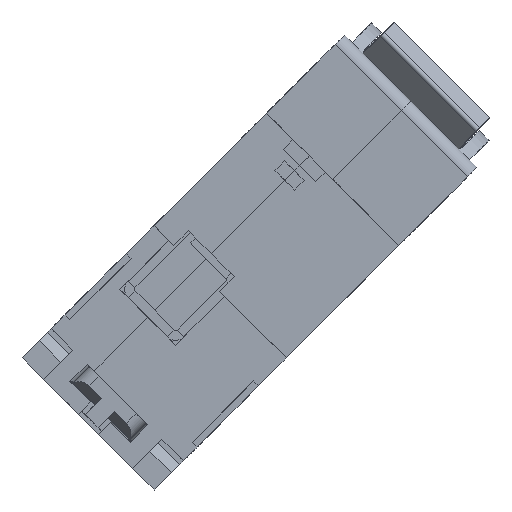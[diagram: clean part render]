
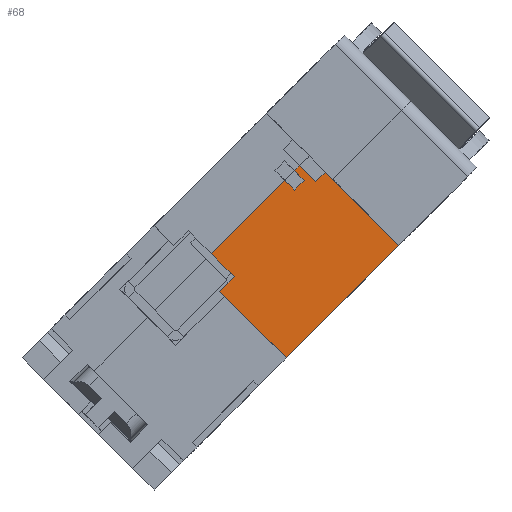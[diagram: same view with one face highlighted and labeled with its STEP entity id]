
A CAD part, front view. The second image highlights one B-rep face of the part: STEP entity #68.
In plain terms, the highlighted planar face has unit normal (0, -1, 0) as drawn and (-1, 0, 0) by its records, which use the part's own axes.
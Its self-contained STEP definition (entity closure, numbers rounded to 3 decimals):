
#54 = VERTEX_POINT ( 'NONE', #6574 ) ;
#55 = ORIENTED_EDGE ( 'NONE', *, *, #114, .F. ) ;
#68 = ADVANCED_FACE ( 'NONE', ( #6614 ), #6613, .F. ) ;
#100 = ORIENTED_EDGE ( 'NONE', *, *, #6307, .F. ) ;
#114 = EDGE_CURVE ( 'NONE', #115, #54, #6671, .T. ) ;
#115 = VERTEX_POINT ( 'NONE', #6667 ) ;
#116 = ORIENTED_EDGE ( 'NONE', *, *, #117, .T. ) ;
#117 = EDGE_CURVE ( 'NONE', #115, #6442, #6666, .T. ) ;
#118 = ORIENTED_EDGE ( 'NONE', *, *, #6450, .F. ) ;
#119 = ORIENTED_EDGE ( 'NONE', *, *, #120, .F. ) ;
#120 = EDGE_CURVE ( 'NONE', #121, #6448, #6662, .T. ) ;
#121 = VERTEX_POINT ( 'NONE', #6721 ) ;
#122 = ORIENTED_EDGE ( 'NONE', *, *, #123, .F. ) ;
#123 = EDGE_CURVE ( 'NONE', #124, #121, #6720, .T. ) ;
#124 = VERTEX_POINT ( 'NONE', #6716 ) ;
#125 = ORIENTED_EDGE ( 'NONE', *, *, #126, .F. ) ;
#126 = EDGE_CURVE ( 'NONE', #6308, #124, #6715, .T. ) ;
#127 = EDGE_LOOP ( 'NONE', ( #128, #131, #134, #136, #137, #55, #116, #118, #119, #122, #125, #100 ) ) ;
#128 = ORIENTED_EDGE ( 'NONE', *, *, #129, .T. ) ;
#129 = EDGE_CURVE ( 'NONE', #6305, #130, #6711, .T. ) ;
#130 = VERTEX_POINT ( 'NONE', #6707 ) ;
#131 = ORIENTED_EDGE ( 'NONE', *, *, #132, .F. ) ;
#132 = EDGE_CURVE ( 'NONE', #133, #130, #6706, .T. ) ;
#133 = VERTEX_POINT ( 'NONE', #6702 ) ;
#134 = ORIENTED_EDGE ( 'NONE', *, *, #135, .F. ) ;
#135 = EDGE_CURVE ( 'NONE', #6155, #133, #6701, .T. ) ;
#136 = ORIENTED_EDGE ( 'NONE', *, *, #6219, .F. ) ;
#137 = ORIENTED_EDGE ( 'NONE', *, *, #138, .F. ) ;
#138 = EDGE_CURVE ( 'NONE', #54, #6161, #6697, .T. ) ;
#6155 = VERTEX_POINT ( 'NONE', #16440 ) ;
#6161 = VERTEX_POINT ( 'NONE', #16430 ) ;
#6219 = EDGE_CURVE ( 'NONE', #6161, #6155, #16578, .T. ) ;
#6305 = VERTEX_POINT ( 'NONE', #16681 ) ;
#6307 = EDGE_CURVE ( 'NONE', #6305, #6308, #16680, .T. ) ;
#6308 = VERTEX_POINT ( 'NONE', #16676 ) ;
#6442 = VERTEX_POINT ( 'NONE', #16895 ) ;
#6448 = VERTEX_POINT ( 'NONE', #16949 ) ;
#6450 = EDGE_CURVE ( 'NONE', #6448, #6442, #16948, .T. ) ;
#6574 = CARTESIAN_POINT ( 'NONE',  ( -17.8, -19., -2.8 ) ) ;
#6609 = DIRECTION ( 'NONE',  ( 0., 0., -1. ) ) ;
#6610 = DIRECTION ( 'NONE',  ( 1., 0., 0. ) ) ;
#6611 = CARTESIAN_POINT ( 'NONE',  ( -17.8, -39., 13.5 ) ) ;
#6612 = AXIS2_PLACEMENT_3D ( 'NONE', #6611, #6610, #6609 ) ;
#6613 = PLANE ( 'NONE',  #6612 ) ;
#6614 = FACE_OUTER_BOUND ( 'NONE', #127, .T. ) ;
#6659 = DIRECTION ( 'NONE',  ( 0., 0., -1. ) ) ;
#6660 = VECTOR ( 'NONE', #6659, 1000. ) ;
#6661 = CARTESIAN_POINT ( 'NONE',  ( -17.8, -36., -4.8 ) ) ;
#6662 = LINE ( 'NONE', #6661, #6660 ) ;
#6663 = DIRECTION ( 'NONE',  ( 0., 0., -1. ) ) ;
#6664 = VECTOR ( 'NONE', #6663, 1000. ) ;
#6665 = CARTESIAN_POINT ( 'NONE',  ( -17.8, -21., -2.8 ) ) ;
#6666 = LINE ( 'NONE', #6665, #6664 ) ;
#6667 = CARTESIAN_POINT ( 'NONE',  ( -17.8, -21., -2.8 ) ) ;
#6668 = DIRECTION ( 'NONE',  ( 0., 1., 0. ) ) ;
#6669 = VECTOR ( 'NONE', #6668, 1000. ) ;
#6670 = CARTESIAN_POINT ( 'NONE',  ( -17.8, -19., -2.8 ) ) ;
#6671 = LINE ( 'NONE', #6670, #6669 ) ;
#6694 = DIRECTION ( 'NONE',  ( 0., 0., -1. ) ) ;
#6695 = VECTOR ( 'NONE', #6694, 1000. ) ;
#6696 = CARTESIAN_POINT ( 'NONE',  ( -17.8, -19., -2.8 ) ) ;
#6697 = LINE ( 'NONE', #6696, #6695 ) ;
#6698 = DIRECTION ( 'NONE',  ( 0., 0., 1. ) ) ;
#6699 = VECTOR ( 'NONE', #6698, 1000. ) ;
#6700 = CARTESIAN_POINT ( 'NONE',  ( -17.8, -18., -4.8 ) ) ;
#6701 = LINE ( 'NONE', #6700, #6699 ) ;
#6702 = CARTESIAN_POINT ( 'NONE',  ( -17.8, -18., -1.5 ) ) ;
#6703 = DIRECTION ( 'NONE',  ( 0., 1., 0. ) ) ;
#6704 = VECTOR ( 'NONE', #6703, 1000. ) ;
#6705 = CARTESIAN_POINT ( 'NONE',  ( -17.8, -18., -1.5 ) ) ;
#6706 = LINE ( 'NONE', #6705, #6704 ) ;
#6707 = CARTESIAN_POINT ( 'NONE',  ( -17.8, -16., -1.5 ) ) ;
#6708 = DIRECTION ( 'NONE',  ( 0., 0., -1. ) ) ;
#6709 = VECTOR ( 'NONE', #6708, 1000. ) ;
#6710 = CARTESIAN_POINT ( 'NONE',  ( -17.8, -16., 13.5 ) ) ;
#6711 = LINE ( 'NONE', #6710, #6709 ) ;
#6712 = DIRECTION ( 'NONE',  ( 0., 0., -1. ) ) ;
#6713 = VECTOR ( 'NONE', #6712, 1000. ) ;
#6714 = CARTESIAN_POINT ( 'NONE',  ( -17.8, -39., 13.5 ) ) ;
#6715 = LINE ( 'NONE', #6714, #6713 ) ;
#6716 = CARTESIAN_POINT ( 'NONE',  ( -17.8, -39., -0.1 ) ) ;
#6717 = DIRECTION ( 'NONE',  ( 0., 1., 0. ) ) ;
#6718 = VECTOR ( 'NONE', #6717, 1000. ) ;
#6719 = CARTESIAN_POINT ( 'NONE',  ( -17.8, -36., -0.1 ) ) ;
#6720 = LINE ( 'NONE', #6719, #6718 ) ;
#6721 = CARTESIAN_POINT ( 'NONE',  ( -17.8, -36., -0.1 ) ) ;
#16430 = CARTESIAN_POINT ( 'NONE',  ( -17.8, -19., -4.8 ) ) ;
#16440 = CARTESIAN_POINT ( 'NONE',  ( -17.8, -18., -4.8 ) ) ;
#16575 = DIRECTION ( 'NONE',  ( 0., 1., 0. ) ) ;
#16576 = VECTOR ( 'NONE', #16575, 1000. ) ;
#16577 = CARTESIAN_POINT ( 'NONE',  ( -17.8, -16., -4.8 ) ) ;
#16578 = LINE ( 'NONE', #16577, #16576 ) ;
#16676 = CARTESIAN_POINT ( 'NONE',  ( -17.8, -39., 13.5 ) ) ;
#16677 = DIRECTION ( 'NONE',  ( 0., -1., 0. ) ) ;
#16678 = VECTOR ( 'NONE', #16677, 1000. ) ;
#16679 = CARTESIAN_POINT ( 'NONE',  ( -17.8, -39., 13.5 ) ) ;
#16680 = LINE ( 'NONE', #16679, #16678 ) ;
#16681 = CARTESIAN_POINT ( 'NONE',  ( -17.8, -16., 13.5 ) ) ;
#16895 = CARTESIAN_POINT ( 'NONE',  ( -17.8, -21., -4.8 ) ) ;
#16945 = DIRECTION ( 'NONE',  ( 0., 1., 0. ) ) ;
#16946 = VECTOR ( 'NONE', #16945, 1000. ) ;
#16947 = CARTESIAN_POINT ( 'NONE',  ( -17.8, -16., -4.8 ) ) ;
#16948 = LINE ( 'NONE', #16947, #16946 ) ;
#16949 = CARTESIAN_POINT ( 'NONE',  ( -17.8, -36., -4.8 ) ) ;
